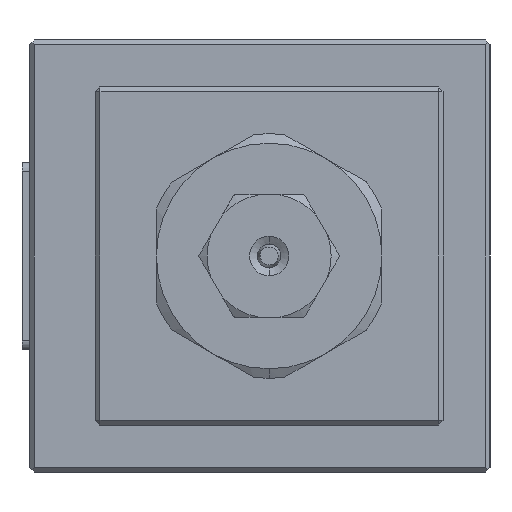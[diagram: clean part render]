
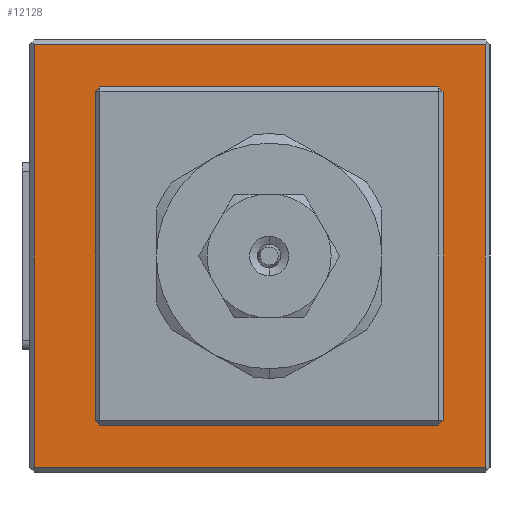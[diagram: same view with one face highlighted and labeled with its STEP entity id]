
A CAD part, left-side view. The second image highlights one B-rep face of the part: STEP entity #12128.
In plain terms, the highlighted planar face has unit normal (-1, 0, 0).
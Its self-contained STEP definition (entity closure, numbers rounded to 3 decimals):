
#189 = CARTESIAN_POINT ( 'NONE',  ( -34., -23.5, -23. ) ) ;
#1310 = CARTESIAN_POINT ( 'NONE',  ( -34., -23.5, -22.5 ) ) ;
#1329 = AXIS2_PLACEMENT_3D ( 'NONE', #4046, #5772, #21124 ) ;
#2642 = DIRECTION ( 'NONE',  ( 0., 1., 0. ) ) ;
#2778 = CARTESIAN_POINT ( 'NONE',  ( -34., 25., 22.5 ) ) ;
#3580 = ORIENTED_EDGE ( 'NONE', *, *, #13234, .T. ) ;
#3807 = ORIENTED_EDGE ( 'NONE', *, *, #17172, .T. ) ;
#4046 = CARTESIAN_POINT ( 'NONE',  ( -34., -0.5, 0. ) ) ;
#4151 = PLANE ( 'NONE',  #8162 ) ;
#4471 = VERTEX_POINT ( 'NONE', #13613 ) ;
#4809 = EDGE_CURVE ( 'NONE', #23183, #21037, #14563, .T. ) ;
#4930 = CIRCLE ( 'NONE', #1329, 12.5 ) ;
#5013 = ORIENTED_EDGE ( 'NONE', *, *, #11507, .T. ) ;
#5121 = DIRECTION ( 'NONE',  ( 0., 0., -1. ) ) ;
#5635 = ORIENTED_EDGE ( 'NONE', *, *, #14900, .T. ) ;
#5772 = DIRECTION ( 'NONE',  ( 1., 0., 0. ) ) ;
#5872 = CARTESIAN_POINT ( 'NONE',  ( -34., -0.5, 12.5 ) ) ;
#6025 = VECTOR ( 'NONE', #8106, 1000. ) ;
#8039 = FACE_OUTER_BOUND ( 'NONE', #17325, .T. ) ;
#8106 = DIRECTION ( 'NONE',  ( 0., -1., 0. ) ) ;
#8162 = AXIS2_PLACEMENT_3D ( 'NONE', #11791, #19438, #13797 ) ;
#8184 = LINE ( 'NONE', #189, #20066 ) ;
#8906 = VERTEX_POINT ( 'NONE', #12677 ) ;
#9038 = ORIENTED_EDGE ( 'NONE', *, *, #4809, .T. ) ;
#9108 = CARTESIAN_POINT ( 'NONE',  ( -34., -0.5, 0. ) ) ;
#11302 = CARTESIAN_POINT ( 'NONE',  ( -34., 24.5, -22.5 ) ) ;
#11507 = EDGE_CURVE ( 'NONE', #4471, #14322, #4930, .T. ) ;
#11791 = CARTESIAN_POINT ( 'NONE',  ( -34., 25., -23. ) ) ;
#12128 = ADVANCED_FACE ( 'NONE', ( #8039, #15698 ), #4151, .T. ) ;
#12358 = CIRCLE ( 'NONE', #17563, 12.5 ) ;
#12677 = CARTESIAN_POINT ( 'NONE',  ( -34., -23.5, 22.5 ) ) ;
#13234 = EDGE_CURVE ( 'NONE', #8906, #23183, #19185, .T. ) ;
#13613 = CARTESIAN_POINT ( 'NONE',  ( -34., -0.5, -12.5 ) ) ;
#13797 = DIRECTION ( 'NONE',  ( 0., -1., 0. ) ) ;
#14200 = CARTESIAN_POINT ( 'NONE',  ( -34., 24.5, -23. ) ) ;
#14270 = DIRECTION ( 'NONE',  ( 1., 0., 0. ) ) ;
#14322 = VERTEX_POINT ( 'NONE', #5872 ) ;
#14563 = LINE ( 'NONE', #14200, #17901 ) ;
#14900 = EDGE_CURVE ( 'NONE', #21037, #15444, #17396, .T. ) ;
#15444 = VERTEX_POINT ( 'NONE', #1310 ) ;
#15456 = CARTESIAN_POINT ( 'NONE',  ( -34., 24.5, 22.5 ) ) ;
#15698 = FACE_BOUND ( 'NONE', #17790, .T. ) ;
#17172 = EDGE_CURVE ( 'NONE', #14322, #4471, #12358, .T. ) ;
#17325 = EDGE_LOOP ( 'NONE', ( #5635, #22638, #3580, #9038 ) ) ;
#17396 = LINE ( 'NONE', #23320, #6025 ) ;
#17563 = AXIS2_PLACEMENT_3D ( 'NONE', #9108, #14270, #5121 ) ;
#17790 = EDGE_LOOP ( 'NONE', ( #5013, #3807 ) ) ;
#17901 = VECTOR ( 'NONE', #18074, 1000. ) ;
#18074 = DIRECTION ( 'NONE',  ( 0., 0., -1. ) ) ;
#19185 = LINE ( 'NONE', #2778, #22273 ) ;
#19438 = DIRECTION ( 'NONE',  ( -1., 0., 0. ) ) ;
#20066 = VECTOR ( 'NONE', #23407, 1000. ) ;
#21037 = VERTEX_POINT ( 'NONE', #11302 ) ;
#21124 = DIRECTION ( 'NONE',  ( 0., 0., -1. ) ) ;
#22273 = VECTOR ( 'NONE', #2642, 1000. ) ;
#22638 = ORIENTED_EDGE ( 'NONE', *, *, #22887, .T. ) ;
#22887 = EDGE_CURVE ( 'NONE', #15444, #8906, #8184, .T. ) ;
#23183 = VERTEX_POINT ( 'NONE', #15456 ) ;
#23320 = CARTESIAN_POINT ( 'NONE',  ( -34., 25., -22.5 ) ) ;
#23407 = DIRECTION ( 'NONE',  ( 0., 0., 1. ) ) ;
